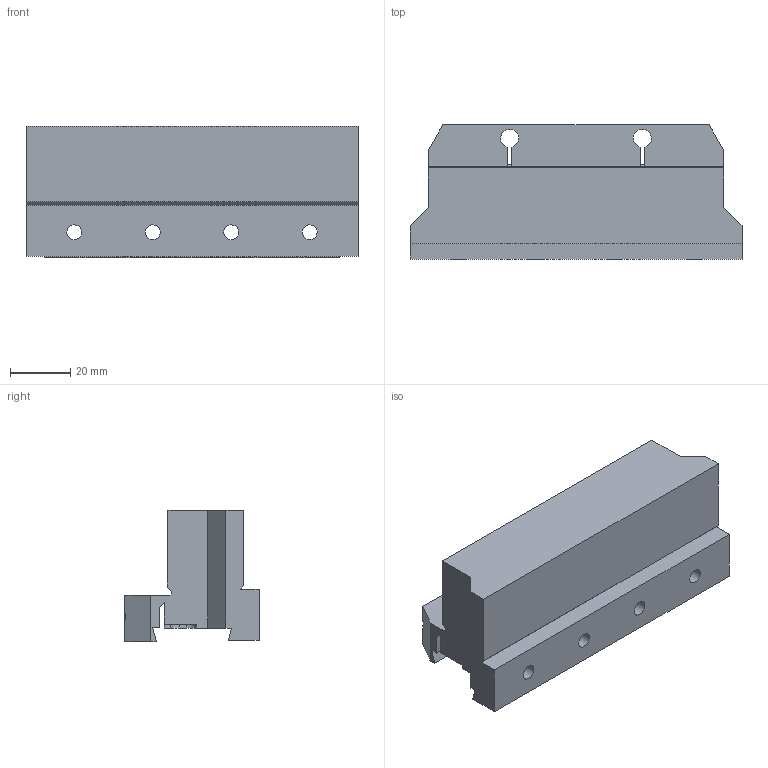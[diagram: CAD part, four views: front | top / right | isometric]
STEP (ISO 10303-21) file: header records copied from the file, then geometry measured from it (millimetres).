
FILE_DESCRIPTION(('CATIA V5 STEP Exchange'),'2;1');
FILE_NAME('I:\isr\design\admin8\users\adhm_a\2300762_L.stp','2011-10-04T10:10:18+00:00',('none'),('none'),'CATIA Version 5 Release 19 SP 7 (IN-10)','CATIA V5 STEP AP214','none');
FILE_SCHEMA(('AUTOMOTIVE_DESIGN { 1 0 10303 214 1 1 1 1 }'));
Length unit declared in the file: millimetre
Products named in the file (1): 60846480_0  SGTBU 25.4-5G
Bounding box: 110 x 44.48 x 43.5 mm (x, y, z)
Volume: 123368.4 mm3; surface area: 27086.5 mm2
Topology: 1 solids, 1 shells, 107 faces, 323 edges, 216 vertices
Faces by surface type: plane 60, cylinder 43, cone 4
Entity records: 3517 total; most frequent: CARTESIAN_POINT 719, ORIENTED_EDGE 646, DIRECTION 453, EDGE_CURVE 323, VERTEX_POINT 216, VECTOR 211, LINE 211, AXIS2_PLACEMENT_3D 170
